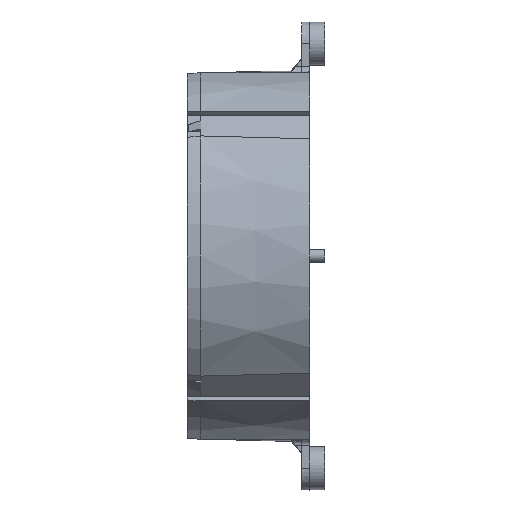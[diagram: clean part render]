
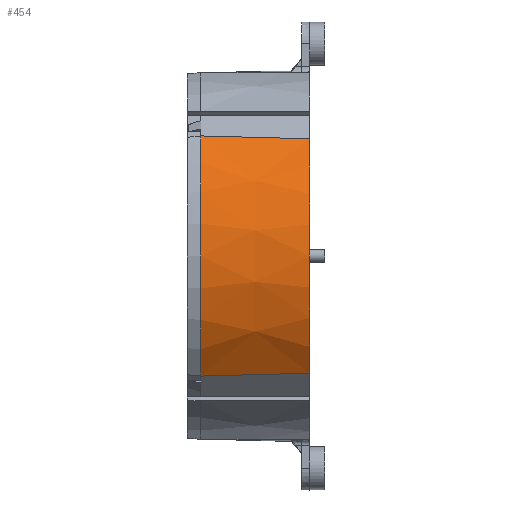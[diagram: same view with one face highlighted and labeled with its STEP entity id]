
A CAD part, left-side view. The second image highlights one B-rep face of the part: STEP entity #454.
In plain terms, the highlighted conical face has half-angle 1 degrees and reference radius 35 mm.
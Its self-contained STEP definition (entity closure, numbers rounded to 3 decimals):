
#454 = ADVANCED_FACE( '', ( #1135 ), #1136, .T. );
#1135 = FACE_OUTER_BOUND( '', #2159, .T. );
#1136 = CONICAL_SURFACE( '', #2160, 35., 0.017 );
#2159 = EDGE_LOOP( '', ( #5406, #5407, #5408, #5409 ) );
#2160 = AXIS2_PLACEMENT_3D( '', #5410, #5411, #5412 );
#5406 = ORIENTED_EDGE( '', *, *, #8226, .T. );
#5407 = ORIENTED_EDGE( '', *, *, #8512, .F. );
#5408 = ORIENTED_EDGE( '', *, *, #8513, .F. );
#5409 = ORIENTED_EDGE( '', *, *, #8514, .T. );
#5410 = CARTESIAN_POINT( '', ( 0., 22.317, 0. ) );
#5411 = DIRECTION( '', ( 0., 1., 0. ) );
#5412 = DIRECTION( '', ( -1., 0., 0. ) );
#8226 = EDGE_CURVE( '', #9425, #9423, #9426, .T. );
#8512 = EDGE_CURVE( '', #9779, #9423, #9901, .T. );
#8513 = EDGE_CURVE( '', #9902, #9779, #9903, .T. );
#8514 = EDGE_CURVE( '', #9902, #9425, #9904, .T. );
#9423 = VERTEX_POINT( '', #11285 );
#9425 = VERTEX_POINT( '', #11288 );
#9426 = CIRCLE( '', #11289, 34.602 );
#9779 = VERTEX_POINT( '', #12927 );
#9901 = B_SPLINE_CURVE_WITH_KNOTS( '', 3, ( #13170, #13171, #13172, #13173 ), .UNSPECIFIED., .F., .F., ( 4, 4 ), ( 0., 0.02 ), .UNSPECIFIED. );
#9902 = VERTEX_POINT( '', #13174 );
#9903 = CIRCLE( '', #13175, 34.956 );
#9904 = B_SPLINE_CURVE_WITH_KNOTS( '', 3, ( #13176, #13177, #13178, #13179 ), .UNSPECIFIED., .F., .F., ( 4, 4 ), ( 0.001, 0.021 ), .UNSPECIFIED. );
#11285 = CARTESIAN_POINT( '', ( -26.855, -0.5, 21.82 ) );
#11288 = CARTESIAN_POINT( '', ( -26.855, -0.5, -21.82 ) );
#11289 = AXIS2_PLACEMENT_3D( '', #16013, #16014, #16015 );
#12927 = CARTESIAN_POINT( '', ( -26.881, 19.817, 22.347 ) );
#13170 = CARTESIAN_POINT( '', ( -26.881, 19.817, 22.347 ) );
#13171 = CARTESIAN_POINT( '', ( -26.873, 13.045, 22.172 ) );
#13172 = CARTESIAN_POINT( '', ( -26.864, 6.272, 21.996 ) );
#13173 = CARTESIAN_POINT( '', ( -26.855, -0.5, 21.82 ) );
#13174 = CARTESIAN_POINT( '', ( -26.881, 19.817, -22.347 ) );
#13175 = AXIS2_PLACEMENT_3D( '', #16288, #16289, #16290 );
#13176 = CARTESIAN_POINT( '', ( -26.881, 19.817, -22.347 ) );
#13177 = CARTESIAN_POINT( '', ( -26.873, 13.045, -22.172 ) );
#13178 = CARTESIAN_POINT( '', ( -26.864, 6.272, -21.996 ) );
#13179 = CARTESIAN_POINT( '', ( -26.855, -0.5, -21.82 ) );
#16013 = CARTESIAN_POINT( '', ( 0., -0.5, 0. ) );
#16014 = DIRECTION( '', ( 0., 1., 0. ) );
#16015 = DIRECTION( '', ( 0., 0., 1. ) );
#16288 = CARTESIAN_POINT( '', ( 0., 19.817, 0. ) );
#16289 = DIRECTION( '', ( 0., 1., 0. ) );
#16290 = DIRECTION( '', ( -0.769, 0., -0.639 ) );
